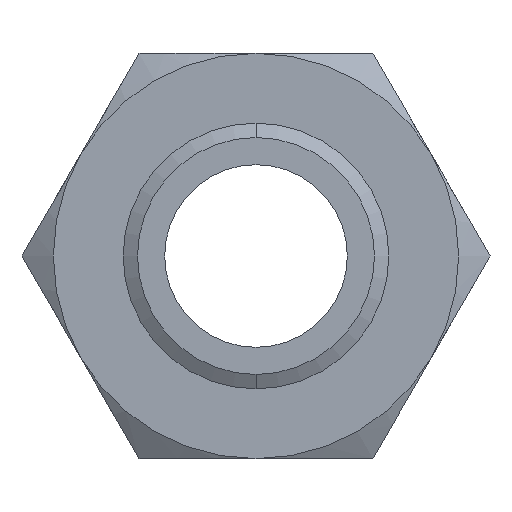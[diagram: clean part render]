
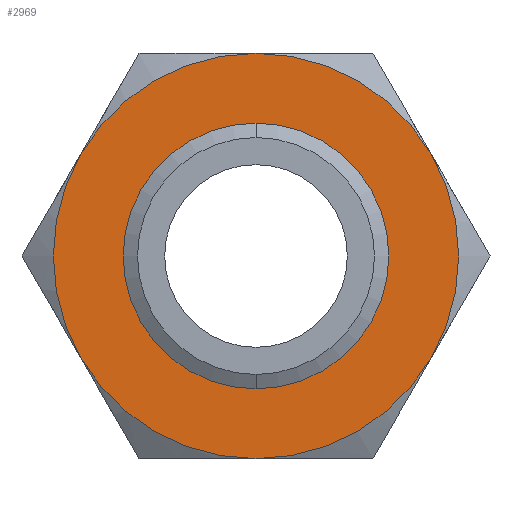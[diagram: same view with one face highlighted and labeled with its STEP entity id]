
A CAD part, front view. The second image highlights one B-rep face of the part: STEP entity #2969.
In plain terms, the highlighted planar face has unit normal (0, -1, 0).
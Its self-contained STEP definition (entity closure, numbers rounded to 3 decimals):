
#15 = VERTEX_POINT ( 'NONE', #776 ) ;
#52 = ORIENTED_EDGE ( 'NONE', *, *, #2963, .F. ) ;
#54 = EDGE_LOOP ( 'NONE', ( #2958, #3007 ) ) ;
#160 = EDGE_CURVE ( 'NONE', #161, #162, #1088, .T. ) ;
#161 = VERTEX_POINT ( 'NONE', #1084 ) ;
#162 = VERTEX_POINT ( 'NONE', #1083 ) ;
#776 = CARTESIAN_POINT ( 'NONE',  ( 0., 0., -77.5 ) ) ;
#1027 = CARTESIAN_POINT ( 'NONE',  ( 0., 0., 0. ) ) ;
#1083 = CARTESIAN_POINT ( 'NONE',  ( 0., 0., 45.301 ) ) ;
#1084 = CARTESIAN_POINT ( 'NONE',  ( 0., 0., -45.301 ) ) ;
#1085 = DIRECTION ( 'NONE',  ( 0., 0., -1. ) ) ;
#1086 = DIRECTION ( 'NONE',  ( 0., -1., 0. ) ) ;
#1087 = AXIS2_PLACEMENT_3D ( 'NONE', #1027, #1086, #1085 ) ;
#1088 = CIRCLE ( 'NONE', #1087, 45.301 ) ;
#2291 = CARTESIAN_POINT ( 'NONE',  ( -67.117, 0., -38.75 ) ) ;
#2320 = DIRECTION ( 'NONE',  ( 0., 0., 1. ) ) ;
#2321 = DIRECTION ( 'NONE',  ( 0., 1., 0. ) ) ;
#2322 = CARTESIAN_POINT ( 'NONE',  ( 0., 0., 0. ) ) ;
#2323 = AXIS2_PLACEMENT_3D ( 'NONE', #2322, #2321, #2320 ) ;
#2328 = CIRCLE ( 'NONE', #2323, 77.5 ) ;
#2337 = DIRECTION ( 'NONE',  ( 0., 0., 1. ) ) ;
#2338 = DIRECTION ( 'NONE',  ( 0., 1., 0. ) ) ;
#2339 = CARTESIAN_POINT ( 'NONE',  ( 0., 0., 0. ) ) ;
#2340 = AXIS2_PLACEMENT_3D ( 'NONE', #2339, #2338, #2337 ) ;
#2341 = CIRCLE ( 'NONE', #2340, 77.5 ) ;
#2348 = CARTESIAN_POINT ( 'NONE',  ( 0., 0., 0. ) ) ;
#2349 = CARTESIAN_POINT ( 'NONE',  ( -67.117, 0., 38.75 ) ) ;
#2354 = DIRECTION ( 'NONE',  ( 0., 0., 1. ) ) ;
#2355 = DIRECTION ( 'NONE',  ( 0., 1., 0. ) ) ;
#2356 = CARTESIAN_POINT ( 'NONE',  ( 0., 0., 0. ) ) ;
#2357 = AXIS2_PLACEMENT_3D ( 'NONE', #2356, #2355, #2354 ) ;
#2358 = CIRCLE ( 'NONE', #2357, 77.5 ) ;
#2359 = CARTESIAN_POINT ( 'NONE',  ( 67.117, 0., 38.75 ) ) ;
#2360 = CARTESIAN_POINT ( 'NONE',  ( 67.117, 0., -38.75 ) ) ;
#2366 = DIRECTION ( 'NONE',  ( 0., 0., 1. ) ) ;
#2367 = DIRECTION ( 'NONE',  ( 0., 1., 0. ) ) ;
#2368 = CARTESIAN_POINT ( 'NONE',  ( 0., 0., 0. ) ) ;
#2369 = AXIS2_PLACEMENT_3D ( 'NONE', #2368, #2367, #2366 ) ;
#2370 = CARTESIAN_POINT ( 'NONE',  ( 0., 0., 77.5 ) ) ;
#2376 = CIRCLE ( 'NONE', #2369, 77.5 ) ;
#2396 = DIRECTION ( 'NONE',  ( 0., 0., 1. ) ) ;
#2397 = DIRECTION ( 'NONE',  ( 0., 1., 0. ) ) ;
#2398 = AXIS2_PLACEMENT_3D ( 'NONE', #2403, #2397, #2396 ) ;
#2399 = CIRCLE ( 'NONE', #2398, 77.5 ) ;
#2400 = DIRECTION ( 'NONE',  ( 0., 0., 1. ) ) ;
#2401 = DIRECTION ( 'NONE',  ( 0., 1., 0. ) ) ;
#2402 = CARTESIAN_POINT ( 'NONE',  ( 44.745, 0., -77.5 ) ) ;
#2403 = CARTESIAN_POINT ( 'NONE',  ( 0., 0., 0. ) ) ;
#2404 = AXIS2_PLACEMENT_3D ( 'NONE', #2402, #2401, #2400 ) ;
#2405 = PLANE ( 'NONE',  #2404 ) ;
#2406 = FACE_BOUND ( 'NONE', #54, .T. ) ;
#2407 = FACE_OUTER_BOUND ( 'NONE', #2964, .T. ) ;
#2408 = DIRECTION ( 'NONE',  ( 0., 0., 1. ) ) ;
#2409 = DIRECTION ( 'NONE',  ( 0., 1., 0. ) ) ;
#2410 = AXIS2_PLACEMENT_3D ( 'NONE', #2348, #2409, #2408 ) ;
#2411 = CIRCLE ( 'NONE', #2410, 77.5 ) ;
#2420 = DIRECTION ( 'NONE',  ( 0., 0., -1. ) ) ;
#2421 = DIRECTION ( 'NONE',  ( 0., -1., 0. ) ) ;
#2422 = CARTESIAN_POINT ( 'NONE',  ( 0., 0., 0. ) ) ;
#2423 = AXIS2_PLACEMENT_3D ( 'NONE', #2422, #2421, #2420 ) ;
#2424 = CIRCLE ( 'NONE', #2423, 45.301 ) ;
#2941 = ORIENTED_EDGE ( 'NONE', *, *, #2944, .F. ) ;
#2942 = VERTEX_POINT ( 'NONE', #2291 ) ;
#2944 = EDGE_CURVE ( 'NONE', #15, #2942, #2341, .T. ) ;
#2948 = EDGE_CURVE ( 'NONE', #2956, #2962, #2328, .T. ) ;
#2952 = ORIENTED_EDGE ( 'NONE', *, *, #2954, .F. ) ;
#2954 = EDGE_CURVE ( 'NONE', #2942, #2967, #2376, .T. ) ;
#2956 = VERTEX_POINT ( 'NONE', #2370 ) ;
#2958 = ORIENTED_EDGE ( 'NONE', *, *, #160, .F. ) ;
#2959 = VERTEX_POINT ( 'NONE', #2360 ) ;
#2961 = ORIENTED_EDGE ( 'NONE', *, *, #2971, .F. ) ;
#2962 = VERTEX_POINT ( 'NONE', #2359 ) ;
#2963 = EDGE_CURVE ( 'NONE', #2959, #15, #2358, .T. ) ;
#2964 = EDGE_LOOP ( 'NONE', ( #2965, #2970, #2952, #2941, #52, #2961 ) ) ;
#2965 = ORIENTED_EDGE ( 'NONE', *, *, #2948, .F. ) ;
#2967 = VERTEX_POINT ( 'NONE', #2349 ) ;
#2968 = EDGE_CURVE ( 'NONE', #2967, #2956, #2411, .T. ) ;
#2969 = ADVANCED_FACE ( 'NONE', ( #2407, #2406 ), #2405, .F. ) ;
#2970 = ORIENTED_EDGE ( 'NONE', *, *, #2968, .F. ) ;
#2971 = EDGE_CURVE ( 'NONE', #2962, #2959, #2399, .T. ) ;
#2988 = EDGE_CURVE ( 'NONE', #162, #161, #2424, .T. ) ;
#3007 = ORIENTED_EDGE ( 'NONE', *, *, #2988, .F. ) ;
